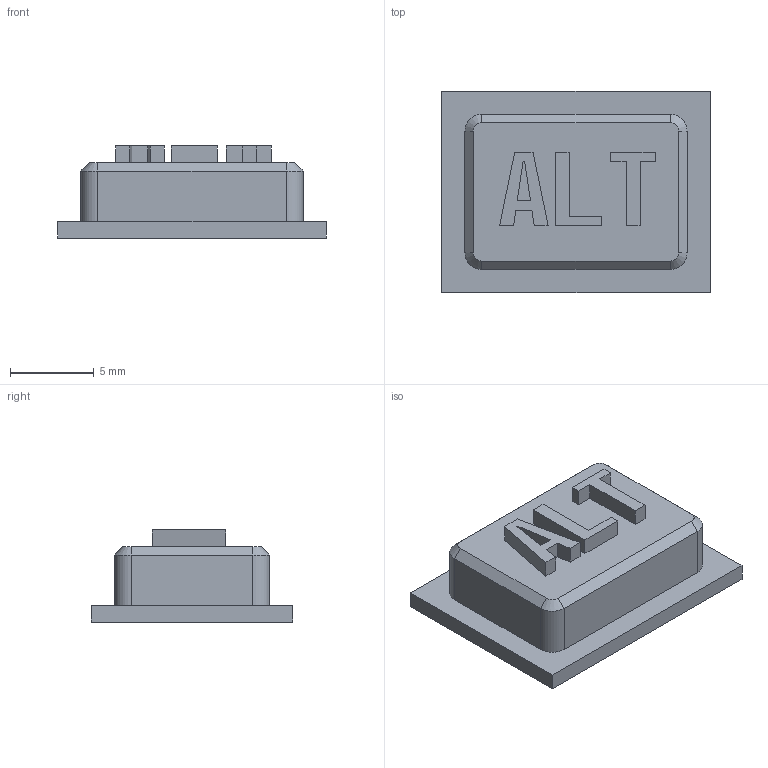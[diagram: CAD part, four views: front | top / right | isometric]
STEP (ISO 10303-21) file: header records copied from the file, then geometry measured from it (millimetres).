
FILE_DESCRIPTION(('FreeCAD Model'),'2;1');
FILE_NAME('E:/CAD Designs/Garmin/Final/CAD files/STEP/alt.step', '2021-02-27T12:54:57',('Author'),(''), 'Open CASCADE STEP processor 7.3','FreeCAD','Unknown');
FILE_SCHEMA(('AUTOMOTIVE_DESIGN { 1 0 10303 214 1 1 1 1 }'));
Length unit declared in the file: millimetre
Products named in the file (2): Body; Extrude
Bounding box: 16 x 12 x 5.5 mm (x, y, z)
Volume: 628.6 mm3; surface area: 658.9 mm2
Topology: 4 solids, 4 shells, 55 faces, 130 edges, 84 vertices
Faces by surface type: plane 47, cylinder 4, cone 4
Entity records: 3302 total; most frequent: CARTESIAN_POINT 536, DIRECTION 513, LINE 370, VECTOR 370, ORIENTED_EDGE 260, PCURVE 260, DEFINITIONAL_REPRESENTATION 260, EDGE_CURVE 130
